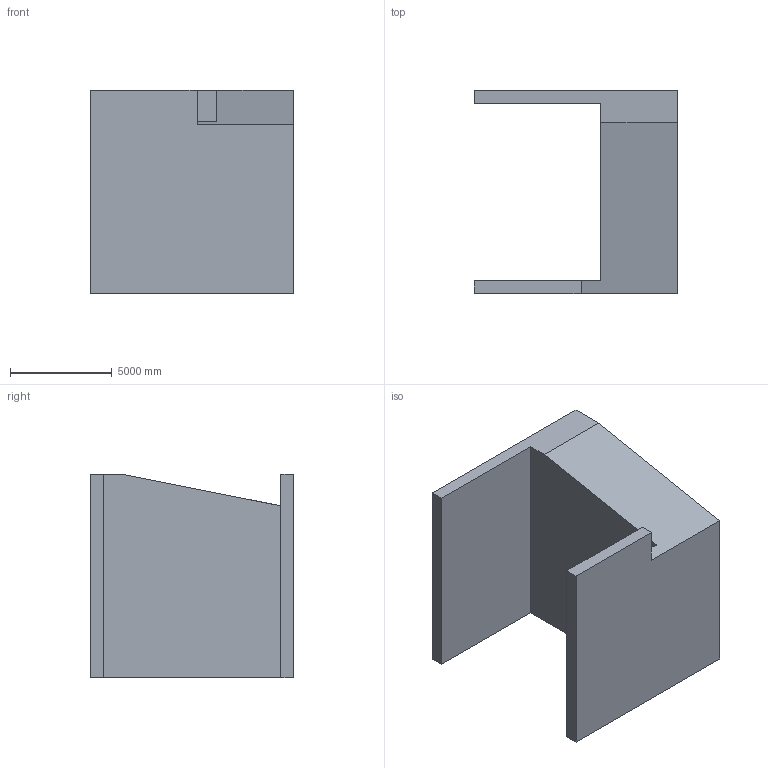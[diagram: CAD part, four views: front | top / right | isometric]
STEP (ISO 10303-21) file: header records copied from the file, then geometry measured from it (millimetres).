
FILE_DESCRIPTION (( 'STEP AP203' ), '1' );
FILE_NAME ('1014.STEP', '2022-08-25T14:38:15', ( 'user' ), ( '' ), 'SwSTEP 2.0', 'SolidWorks 2021', '' );
FILE_SCHEMA (( 'CONFIG_CONTROL_DESIGN' ));
Length unit declared in the file: centimetre
Products named in the file (1): 1014
Bounding box: 10000 x 10000 x 10000 mm (x, y, z)
Volume: 430181438623.6 mm3; surface area: 594973680.6 mm2
Topology: 1 solids, 1 shells, 13 faces, 33 edges, 22 vertices
Faces by surface type: plane 13
Entity records: 464 total; most frequent: CARTESIAN_POINT 69, ORIENTED_EDGE 66, DIRECTION 61, LINE 33, EDGE_CURVE 33, VECTOR 33, VERTEX_POINT 22, AXIS2_PLACEMENT_3D 14
